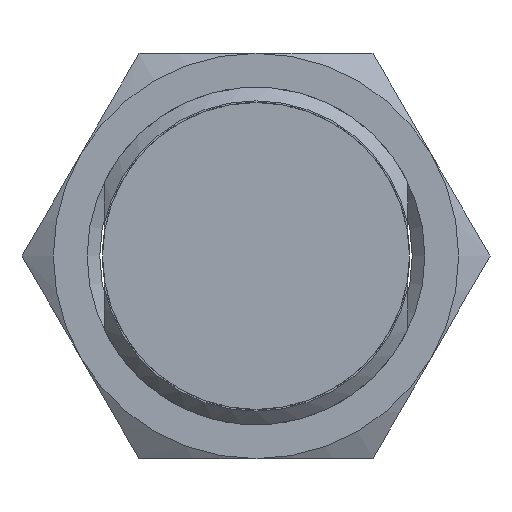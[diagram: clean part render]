
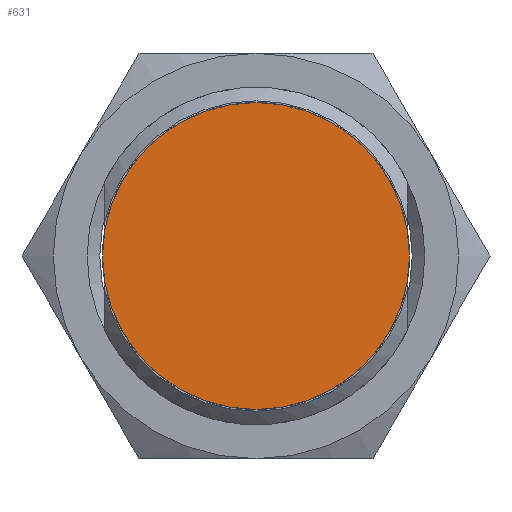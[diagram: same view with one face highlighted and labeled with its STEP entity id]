
A CAD part, left-side view. The second image highlights one B-rep face of the part: STEP entity #631.
In plain terms, the highlighted planar face has unit normal (-1, 0, 0).
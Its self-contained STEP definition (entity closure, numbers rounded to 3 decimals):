
#259=CARTESIAN_POINT('',(-75.,0.,0.));
#260=DIRECTION('',(1.,0.,0.));
#261=DIRECTION('',(0.,1.,0.));
#262=AXIS2_PLACEMENT_3D('',#259,#260,#261);
#264=CARTESIAN_POINT('',(-75.,0.,0.));
#265=DIRECTION('',(-1.,0.,0.));
#266=DIRECTION('',(0.,1.,0.));
#267=AXIS2_PLACEMENT_3D('',#264,#265,#266);
#282=CARTESIAN_POINT('',(-75.,9.088,0.));
#283=CARTESIAN_POINT('',(-75.,-9.088,0.));
#284=VERTEX_POINT('',#282);
#285=VERTEX_POINT('',#283);
#622=CARTESIAN_POINT('',(-75.,0.,0.));
#623=DIRECTION('',(-1.,0.,0.));
#624=DIRECTION('',(0.,1.,0.));
#625=AXIS2_PLACEMENT_3D('',#622,#623,#624);
#626=PLANE('',#625);
#627=ORIENTED_EDGE('',*,*,#616,.T.);
#628=ORIENTED_EDGE('',*,*,#586,.F.);
#629=EDGE_LOOP('',(#627,#628));
#630=FACE_OUTER_BOUND('',#629,.F.);
#631=ADVANCED_FACE('',(#630),#626,.T.);
#263=CIRCLE('',#262,9.088);
#268=CIRCLE('',#267,9.088);
#586=EDGE_CURVE('',#284,#285,#268,.T.);
#616=EDGE_CURVE('',#284,#285,#263,.T.);
